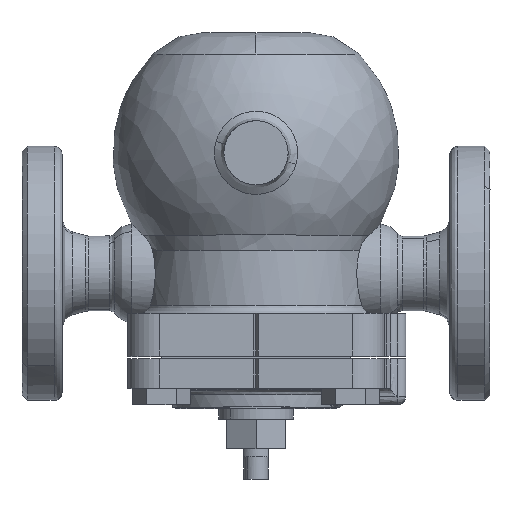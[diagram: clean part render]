
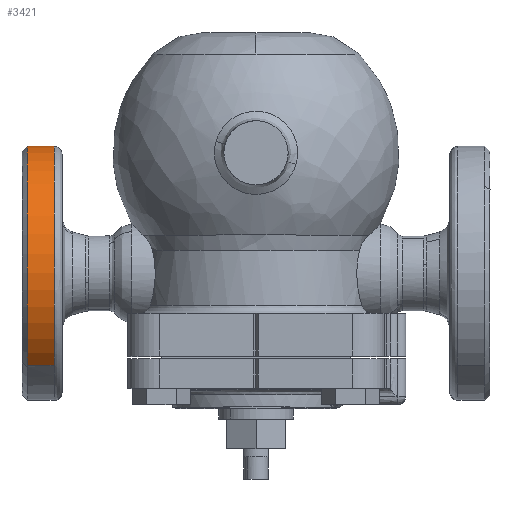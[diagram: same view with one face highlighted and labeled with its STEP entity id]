
A CAD part, top view. The second image highlights one B-rep face of the part: STEP entity #3421.
In plain terms, the highlighted free-form (B-spline) face has degree [2, 1] with [5, 2] control points.
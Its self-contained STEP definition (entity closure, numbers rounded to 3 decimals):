
#3096=CARTESIAN_POINT('',(-85.5,35.021,-32.091));
#3097=VERTEX_POINT('',#3096);
#3103=CARTESIAN_POINT('',(-85.5,34.455,-32.697));
#3104=VERTEX_POINT('',#3103);
#3105=CARTESIAN_POINT('',(-85.5,35.021,-32.091));
#3106=CARTESIAN_POINT('',(-85.5,34.834,-32.294));
#3107=CARTESIAN_POINT('',(-85.5,34.646,-32.496));
#3108=CARTESIAN_POINT('',(-85.5,34.455,-32.697));
#3109=B_SPLINE_CURVE_WITH_KNOTS('',3,(#3105,#3106,#3107,#3108),.UNSPECIFIED.,.F.,.U.,(4,4),(0.,0.829),.UNSPECIFIED.);
#3110=EDGE_CURVE('',#3097,#3104,#3109,.T.);
#3162=CARTESIAN_POINT('',(-85.5,-34.455,32.697));
#3163=VERTEX_POINT('',#3162);
#3171=CARTESIAN_POINT('',(-85.5,0.,47.5));
#3172=VERTEX_POINT('',#3171);
#3173=CARTESIAN_POINT('',(-85.5,-34.455,32.697));
#3174=CARTESIAN_POINT('',(-85.5,-32.728,34.517));
#3175=CARTESIAN_POINT('',(-85.5,-29.957,37.009));
#3176=CARTESIAN_POINT('',(-85.5,-25.444,40.197));
#3177=CARTESIAN_POINT('',(-85.5,-21.604,42.395));
#3178=CARTESIAN_POINT('',(-85.5,-16.829,44.518));
#3179=CARTESIAN_POINT('',(-85.5,-11.753,46.148));
#3180=CARTESIAN_POINT('',(-85.5,-5.923,47.251));
#3181=CARTESIAN_POINT('',(-85.5,-2.008,47.5));
#3182=CARTESIAN_POINT('',(-85.5,0.,47.5));
#3183=B_SPLINE_CURVE_WITH_KNOTS('',3,(#3173,#3174,#3175,#3176,#3177,#3178,#3179,#3180,#3181,#3182),.UNSPECIFIED.,.F.,.U.,(4,1,1,1,1,1,1,4),(0.,7.529,11.143,16.564,20.781,26.804,32.527,38.55),.UNSPECIFIED.);
#3184=EDGE_CURVE('',#3163,#3172,#3183,.T.);
#3186=CARTESIAN_POINT('',(-85.5,47.5,0.));
#3187=VERTEX_POINT('',#3186);
#3188=CARTESIAN_POINT('',(-85.5,0.,47.5));
#3189=CARTESIAN_POINT('',(-85.5,2.526,47.5));
#3190=CARTESIAN_POINT('',(-85.5,7.772,47.081));
#3191=CARTESIAN_POINT('',(-85.5,14.772,45.327));
#3192=CARTESIAN_POINT('',(-85.5,20.437,42.98));
#3193=CARTESIAN_POINT('',(-85.5,25.729,40.089));
#3194=CARTESIAN_POINT('',(-85.5,31.405,35.96));
#3195=CARTESIAN_POINT('',(-85.5,36.483,30.692));
#3196=CARTESIAN_POINT('',(-85.5,40.438,25.147));
#3197=CARTESIAN_POINT('',(-85.5,42.899,20.611));
#3198=CARTESIAN_POINT('',(-85.5,44.967,15.574));
#3199=CARTESIAN_POINT('',(-85.5,46.885,9.035));
#3200=CARTESIAN_POINT('',(-85.5,47.501,3.498));
#3201=CARTESIAN_POINT('',(-85.5,47.5,0.));
#3202=B_SPLINE_CURVE_WITH_KNOTS('',3,(#3188,#3189,#3190,#3191,#3192,#3193,#3194,#3195,#3196,#3197,#3198,#3199,#3200,#3201),.UNSPECIFIED.,.F.,.U.,(4,1,1,1,1,1,1,1,1,1,1,4),(0.,7.578,15.739,21.568,25.94,33.809,42.553,47.799,54.211,58.,64.121,74.613),.UNSPECIFIED.);
#3203=EDGE_CURVE('',#3172,#3187,#3202,.T.);
#3205=CARTESIAN_POINT('',(-85.5,47.5,0.));
#3206=CARTESIAN_POINT('',(-85.5,47.5,-2.477));
#3207=CARTESIAN_POINT('',(-85.5,47.155,-6.882));
#3208=CARTESIAN_POINT('',(-85.5,45.827,-12.896));
#3209=CARTESIAN_POINT('',(-85.5,44.204,-17.585));
#3210=CARTESIAN_POINT('',(-85.5,42.218,-21.928));
#3211=CARTESIAN_POINT('',(-85.5,39.411,-26.78));
#3212=CARTESIAN_POINT('',(-85.5,36.757,-30.197));
#3213=CARTESIAN_POINT('',(-85.5,35.021,-32.091));
#3214=B_SPLINE_CURVE_WITH_KNOTS('',3,(#3205,#3206,#3207,#3208,#3209,#3210,#3211,#3212,#3213),.UNSPECIFIED.,.F.,.U.,(4,1,1,1,1,1,4),(0.,7.432,13.213,18.443,22.296,27.526,35.234),.UNSPECIFIED.);
#3215=EDGE_CURVE('',#3187,#3097,#3214,.T.);
#3287=CARTESIAN_POINT('',(-75.5,34.455,-32.697));
#3288=VERTEX_POINT('',#3287);
#3289=CARTESIAN_POINT('',(-75.5,34.455,-32.697));
#3290=CARTESIAN_POINT('',(-85.5,34.455,-32.697));
#3291=QUASI_UNIFORM_CURVE('',1,(#3289,#3290),.UNSPECIFIED.,.F.,.U.);
#3292=EDGE_CURVE('',#3288,#3104,#3291,.T.);
#3326=CARTESIAN_POINT('',(-75.5,-34.455,32.697));
#3327=VERTEX_POINT('',#3326);
#3339=CARTESIAN_POINT('',(-75.5,-34.455,32.697));
#3340=CARTESIAN_POINT('',(-85.5,-34.455,32.697));
#3341=QUASI_UNIFORM_CURVE('',1,(#3339,#3340),.UNSPECIFIED.,.F.,.U.);
#3342=EDGE_CURVE('',#3327,#3163,#3341,.T.);
#3350=CARTESIAN_POINT('',(-75.25,-34.455,32.697));
#3351=CARTESIAN_POINT('',(-75.25,-1.758,67.152));
#3352=CARTESIAN_POINT('',(-75.25,32.697,34.455));
#3353=CARTESIAN_POINT('',(-75.25,67.152,1.758));
#3354=CARTESIAN_POINT('',(-75.25,34.455,-32.697));
#3355=CARTESIAN_POINT('',(-85.756,-34.455,32.697));
#3356=CARTESIAN_POINT('',(-85.756,-1.758,67.152));
#3357=CARTESIAN_POINT('',(-85.756,32.697,34.455));
#3358=CARTESIAN_POINT('',(-85.756,67.152,1.758));
#3359=CARTESIAN_POINT('',(-85.756,34.455,-32.697));
#3367=(BOUNDED_SURFACE()B_SPLINE_SURFACE(2,1,((#3350,#3355),(#3351,#3356),(#3352,#3357),(#3353,#3358),(#3354,#3359)),.UNSPECIFIED.,.F.,.F.,.U.)B_SPLINE_SURFACE_WITH_KNOTS((3,2,3),(2,2),(0.,78.701,157.401),(0.,10.506),.UNSPECIFIED.)GEOMETRIC_REPRESENTATION_ITEM()RATIONAL_B_SPLINE_SURFACE(((1.,1.),(0.707,0.707),(1.,1.),(0.707,0.707),(1.,1.)))REPRESENTATION_ITEM('')SURFACE());
#3368=ORIENTED_EDGE('',*,*,#3215,.F.);
#3369=ORIENTED_EDGE('',*,*,#3203,.F.);
#3370=ORIENTED_EDGE('',*,*,#3184,.F.);
#3371=ORIENTED_EDGE('',*,*,#3342,.F.);
#3372=CARTESIAN_POINT('',(-75.5,0.,47.5));
#3373=VERTEX_POINT('',#3372);
#3374=CARTESIAN_POINT('',(-75.5,-34.455,32.697));
#3375=CARTESIAN_POINT('',(-75.5,-33.073,34.153));
#3376=CARTESIAN_POINT('',(-75.5,-29.829,37.164));
#3377=CARTESIAN_POINT('',(-75.5,-24.626,40.791));
#3378=CARTESIAN_POINT('',(-75.5,-19.341,43.491));
#3379=CARTESIAN_POINT('',(-75.5,-13.512,45.695));
#3380=CARTESIAN_POINT('',(-75.5,-7.128,47.156));
#3381=CARTESIAN_POINT('',(-75.5,-2.209,47.5));
#3382=CARTESIAN_POINT('',(-75.5,0.,47.5));
#3383=B_SPLINE_CURVE_WITH_KNOTS('',3,(#3374,#3375,#3376,#3377,#3378,#3379,#3380,#3381,#3382),.UNSPECIFIED.,.F.,.U.,(4,1,1,1,1,1,4),(0.,6.023,13.252,18.974,23.793,31.924,38.55),.UNSPECIFIED.);
#3384=EDGE_CURVE('',#3327,#3373,#3383,.T.);
#3385=ORIENTED_EDGE('',*,*,#3384,.T.);
#3386=CARTESIAN_POINT('',(-75.5,47.496,0.597));
#3387=VERTEX_POINT('',#3386);
#3388=CARTESIAN_POINT('',(-75.5,0.,47.5));
#3389=CARTESIAN_POINT('',(-75.5,2.024,47.5));
#3390=CARTESIAN_POINT('',(-75.5,6.072,47.241));
#3391=CARTESIAN_POINT('',(-75.5,11.665,46.155));
#3392=CARTESIAN_POINT('',(-75.5,17.644,44.257));
#3393=CARTESIAN_POINT('',(-75.5,23.415,41.531));
#3394=CARTESIAN_POINT('',(-75.5,29.352,37.552));
#3395=CARTESIAN_POINT('',(-75.5,33.804,33.54));
#3396=CARTESIAN_POINT('',(-75.5,37.538,29.245));
#3397=CARTESIAN_POINT('',(-75.5,40.256,25.373));
#3398=CARTESIAN_POINT('',(-75.5,42.981,20.486));
#3399=CARTESIAN_POINT('',(-75.5,45.038,15.481));
#3400=CARTESIAN_POINT('',(-75.5,46.91,8.589));
#3401=CARTESIAN_POINT('',(-75.5,47.457,3.777));
#3402=CARTESIAN_POINT('',(-75.5,47.496,0.597));
#3403=B_SPLINE_CURVE_WITH_KNOTS('',3,(#3388,#3389,#3390,#3391,#3392,#3393,#3394,#3395,#3396,#3397,#3398,#3399,#3400,#3401,#3402),.UNSPECIFIED.,.F.,.U.,(4,1,1,1,1,1,1,1,1,1,1,1,4),(0.,6.072,12.143,17.058,24.865,31.226,38.454,42.79,48.284,52.621,59.56,64.475,74.016),.UNSPECIFIED.);
#3404=EDGE_CURVE('',#3373,#3387,#3403,.T.);
#3405=ORIENTED_EDGE('',*,*,#3404,.T.);
#3406=CARTESIAN_POINT('',(-75.5,47.496,0.597));
#3407=CARTESIAN_POINT('',(-75.5,47.536,-2.553));
#3408=CARTESIAN_POINT('',(-75.5,47.052,-8.097));
#3409=CARTESIAN_POINT('',(-75.5,45.07,-15.495));
#3410=CARTESIAN_POINT('',(-75.5,42.553,-21.391));
#3411=CARTESIAN_POINT('',(-75.5,39.168,-27.167));
#3412=CARTESIAN_POINT('',(-75.5,36.296,-30.758));
#3413=CARTESIAN_POINT('',(-75.5,34.455,-32.697));
#3414=B_SPLINE_CURVE_WITH_KNOTS('',3,(#3406,#3407,#3408,#3409,#3410,#3411,#3412,#3413),.UNSPECIFIED.,.F.,.U.,(4,1,1,1,1,4),(0.,9.451,16.612,22.912,28.64,36.66),.UNSPECIFIED.);
#3415=EDGE_CURVE('',#3387,#3288,#3414,.T.);
#3416=ORIENTED_EDGE('',*,*,#3415,.T.);
#3417=ORIENTED_EDGE('',*,*,#3292,.T.);
#3418=ORIENTED_EDGE('',*,*,#3110,.F.);
#3419=EDGE_LOOP('',(#3368,#3369,#3370,#3371,#3385,#3405,#3416,#3417,#3418));
#3420=FACE_OUTER_BOUND('',#3419,.T.);
#3421=ADVANCED_FACE('',(#3420),#3367,.T.);
